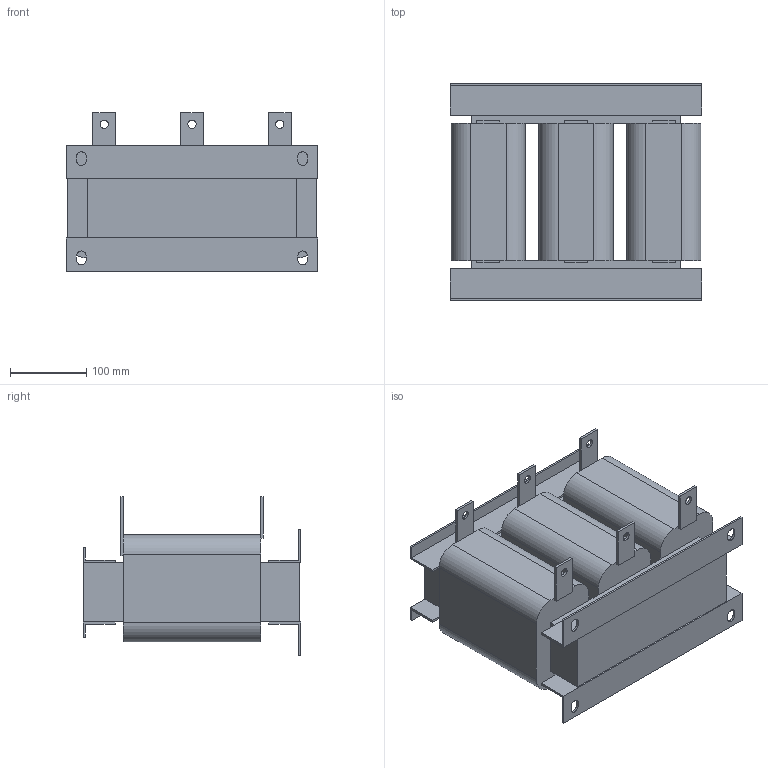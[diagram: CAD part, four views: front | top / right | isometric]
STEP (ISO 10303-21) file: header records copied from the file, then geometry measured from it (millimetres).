
FILE_DESCRIPTION(/* description */ (''),/* implementation_level */ '2;1');
FILE_NAME(/* name */ 'E:\Работа\Веда МК (Данфосс)\!Текущие задачи\2024.08.30 3D модели\Дроссели\ACO 1-проц 660 В\STP\ACO-C-0270-T6.stp',/* time_stamp */ '2024-10-31T16:24:32+04:00',/* author */ ('Александр (огранич)'),/* organization */ (''),/* preprocessor_version */ 'ST-DEVELOPER v18.1',/* originating_system */ 'Autodesk Inventor 2021',/* authorisation */ '');
FILE_SCHEMA (('AUTOMOTIVE_DESIGN { 1 0 10303 214 3 1 1 }'));
Length unit declared in the file: millimetre
Products named in the file (1): ACO-0015-T4-4
Bounding box: 330 x 285 x 207.5 mm (x, y, z)
Volume: 9564294.1 mm3; surface area: 567339.8 mm2
Topology: 3 solids, 3 shells, 136 faces, 373 edges, 239 vertices
Faces by surface type: plane 110, cylinder 26
Full cylindrical faces by diameter (mm): 11 x6
Entity records: 4327 total; most frequent: CARTESIAN_POINT 749, ORIENTED_EDGE 746, DIRECTION 702, EDGE_CURVE 373, LINE 318, VECTOR 318, VERTEX_POINT 239, AXIS2_PLACEMENT_3D 192
